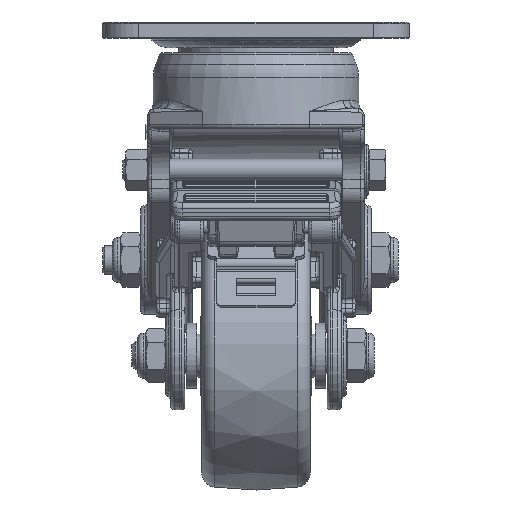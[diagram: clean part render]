
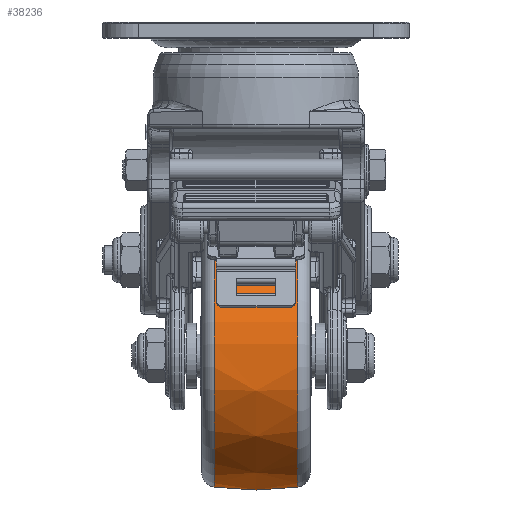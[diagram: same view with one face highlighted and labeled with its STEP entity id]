
A CAD part, left-side view. The second image highlights one B-rep face of the part: STEP entity #38236.
In plain terms, the highlighted free-form (B-spline) face has degree [2, 2] with [3, 9] control points.
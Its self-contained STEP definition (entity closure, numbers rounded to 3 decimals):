
#3087=(
BOUNDED_SURFACE()
B_SPLINE_SURFACE(2,2,((#54248,#54249,#54250,#54251,#54252,#54253,#54254,
#54255,#54256),(#54257,#54258,#54259,#54260,#54261,#54262,#54263,#54264,
#54265),(#54266,#54267,#54268,#54269,#54270,#54271,#54272,#54273,#54274)),
 .UNSPECIFIED.,.F.,.T.,.F.)
B_SPLINE_SURFACE_WITH_KNOTS((3,3),(3,2,2,2,3),(-0.156,0.156),
(-3.142,-1.571,0.,1.571,3.142),
 .UNSPECIFIED.)
GEOMETRIC_REPRESENTATION_ITEM()
RATIONAL_B_SPLINE_SURFACE(((1.,0.707,1.,0.707,1.,
0.707,1.,0.707,1.),(0.988,0.699,
0.988,0.699,0.988,0.699,
0.988,0.699,0.988),(1.,0.707,
1.,0.707,1.,0.707,1.,0.707,1.)))
REPRESENTATION_ITEM('')
SURFACE()
);
#4231=FACE_OUTER_BOUND('',#6665,.T.);
#6665=EDGE_LOOP('',(#26206,#26207,#26208,#26209,#26210,#26211,#26212,#26213));
#15040=CIRCLE('',#40744,36.594);
#15041=CIRCLE('',#40745,36.594);
#15042=CIRCLE('',#40746,36.594);
#15043=CIRCLE('',#40747,75.);
#15044=CIRCLE('',#40748,36.594);
#15045=CIRCLE('',#40749,36.594);
#15046=CIRCLE('',#40750,36.594);
#16419=VERTEX_POINT('',#54241);
#16420=VERTEX_POINT('',#54243);
#16421=VERTEX_POINT('',#54245);
#16422=VERTEX_POINT('',#54275);
#16423=VERTEX_POINT('',#54277);
#16424=VERTEX_POINT('',#54279);
#20138=EDGE_CURVE('',#16419,#16420,#15040,.T.);
#20139=EDGE_CURVE('',#16420,#16421,#15041,.T.);
#20140=EDGE_CURVE('',#16421,#16419,#15042,.T.);
#20141=EDGE_CURVE('',#16419,#16422,#15043,.T.);
#20142=EDGE_CURVE('',#16422,#16423,#15044,.T.);
#20143=EDGE_CURVE('',#16423,#16424,#15045,.T.);
#20144=EDGE_CURVE('',#16424,#16422,#15046,.T.);
#26206=ORIENTED_EDGE('',*,*,#20139,.F.);
#26207=ORIENTED_EDGE('',*,*,#20138,.F.);
#26208=ORIENTED_EDGE('',*,*,#20141,.T.);
#26209=ORIENTED_EDGE('',*,*,#20142,.T.);
#26210=ORIENTED_EDGE('',*,*,#20143,.T.);
#26211=ORIENTED_EDGE('',*,*,#20144,.T.);
#26212=ORIENTED_EDGE('',*,*,#20141,.F.);
#26213=ORIENTED_EDGE('',*,*,#20140,.F.);
#38236=ADVANCED_FACE('',(#4231),#3087,.F.);
#40744=AXIS2_PLACEMENT_3D('',#54244,#44355,#44356);
#40745=AXIS2_PLACEMENT_3D('',#54246,#44357,#44358);
#40746=AXIS2_PLACEMENT_3D('',#54247,#44359,#44360);
#40747=AXIS2_PLACEMENT_3D('',#54276,#44361,#44362);
#40748=AXIS2_PLACEMENT_3D('',#54278,#44363,#44364);
#40749=AXIS2_PLACEMENT_3D('',#54280,#44365,#44366);
#40750=AXIS2_PLACEMENT_3D('',#54281,#44367,#44368);
#44355=DIRECTION('center_axis',(0.,1.,0.));
#44356=DIRECTION('ref_axis',(0.259,0.,-0.966));
#44357=DIRECTION('center_axis',(0.,1.,0.));
#44358=DIRECTION('ref_axis',(0.259,0.,-0.966));
#44359=DIRECTION('center_axis',(0.,1.,0.));
#44360=DIRECTION('ref_axis',(0.259,0.,-0.966));
#44361=DIRECTION('center_axis',(0.966,0.,0.259));
#44362=DIRECTION('ref_axis',(-0.259,0.,0.966));
#44363=DIRECTION('center_axis',(0.,1.,0.));
#44364=DIRECTION('ref_axis',(0.259,0.,-0.966));
#44365=DIRECTION('center_axis',(0.,1.,0.));
#44366=DIRECTION('ref_axis',(0.259,0.,-0.966));
#44367=DIRECTION('center_axis',(0.,1.,0.));
#44368=DIRECTION('ref_axis',(0.259,0.,-0.966));
#54241=CARTESIAN_POINT('',(-44.494,11.62,-57.164));
#54243=CARTESIAN_POINT('',(0.343,11.62,-83.009));
#54244=CARTESIAN_POINT('Origin',(-34.998,11.62,-92.505));
#54245=CARTESIAN_POINT('',(-70.339,11.62,-102.));
#54246=CARTESIAN_POINT('Origin',(-34.998,11.62,-92.505));
#54247=CARTESIAN_POINT('Origin',(-34.998,11.62,-92.505));
#54248=CARTESIAN_POINT('Ctrl Pts',(-44.494,-11.62,
-57.164));
#54249=CARTESIAN_POINT('Ctrl Pts',(-9.153,-11.62,
-47.668));
#54250=CARTESIAN_POINT('Ctrl Pts',(0.343,-11.62,
-83.009));
#54251=CARTESIAN_POINT('Ctrl Pts',(9.838,-11.62,-118.35));
#54252=CARTESIAN_POINT('Ctrl Pts',(-25.503,-11.62,
-127.846));
#54253=CARTESIAN_POINT('Ctrl Pts',(-60.844,-11.62,
-137.341));
#54254=CARTESIAN_POINT('Ctrl Pts',(-70.339,-11.62,
-102.));
#54255=CARTESIAN_POINT('Ctrl Pts',(-79.835,-11.62,
-66.659));
#54256=CARTESIAN_POINT('Ctrl Pts',(-44.494,-11.62,
-57.164));
#54257=CARTESIAN_POINT('Ctrl Pts',(-44.966,0.,
-55.404));
#54258=CARTESIAN_POINT('Ctrl Pts',(-7.866,0.,
-45.436));
#54259=CARTESIAN_POINT('Ctrl Pts',(2.103,0.,
-82.537));
#54260=CARTESIAN_POINT('Ctrl Pts',(12.071,0.,
-119.637));
#54261=CARTESIAN_POINT('Ctrl Pts',(-25.03,0.,
-129.606));
#54262=CARTESIAN_POINT('Ctrl Pts',(-62.131,0.,
-139.574));
#54263=CARTESIAN_POINT('Ctrl Pts',(-72.099,0.,
-102.473));
#54264=CARTESIAN_POINT('Ctrl Pts',(-82.067,0.,
-65.372));
#54265=CARTESIAN_POINT('Ctrl Pts',(-44.966,0.,
-55.404));
#54266=CARTESIAN_POINT('Ctrl Pts',(-44.494,11.62,-57.164));
#54267=CARTESIAN_POINT('Ctrl Pts',(-9.153,11.62,-47.668));
#54268=CARTESIAN_POINT('Ctrl Pts',(0.343,11.62,-83.009));
#54269=CARTESIAN_POINT('Ctrl Pts',(9.838,11.62,-118.35));
#54270=CARTESIAN_POINT('Ctrl Pts',(-25.503,11.62,-127.846));
#54271=CARTESIAN_POINT('Ctrl Pts',(-60.844,11.62,-137.341));
#54272=CARTESIAN_POINT('Ctrl Pts',(-70.339,11.62,-102.));
#54273=CARTESIAN_POINT('Ctrl Pts',(-79.835,11.62,-66.659));
#54274=CARTESIAN_POINT('Ctrl Pts',(-44.494,11.62,-57.164));
#54275=CARTESIAN_POINT('',(-44.494,-11.62,-57.164));
#54276=CARTESIAN_POINT('Origin',(-25.268,0.,
-128.72));
#54277=CARTESIAN_POINT('',(0.343,-11.62,-83.009));
#54278=CARTESIAN_POINT('Origin',(-34.998,-11.62,-92.505));
#54279=CARTESIAN_POINT('',(-70.339,-11.62,-102.));
#54280=CARTESIAN_POINT('Origin',(-34.998,-11.62,-92.505));
#54281=CARTESIAN_POINT('Origin',(-34.998,-11.62,-92.505));
